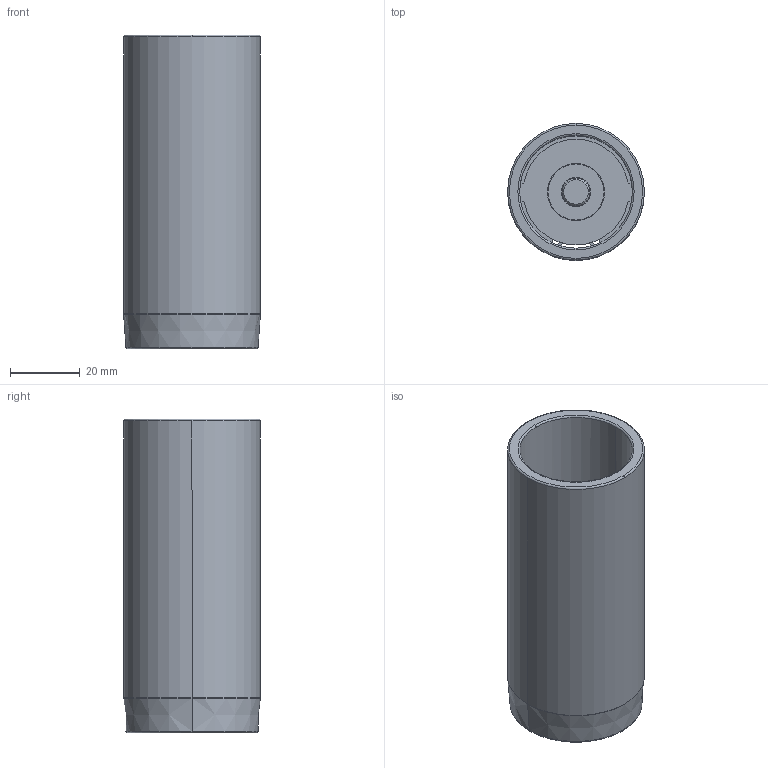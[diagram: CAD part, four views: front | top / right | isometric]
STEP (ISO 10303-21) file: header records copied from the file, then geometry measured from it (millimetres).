
FILE_DESCRIPTION((''),'2;1');
FILE_NAME('C12_032_090.stp','2009-01-28T09:49:22',(''),(''),'Mechanical Desktop 2009','Mechanical Desktop 2009',', , ');
FILE_SCHEMA(('CONFIG_CONTROL_DESIGN'));
Length unit declared in the file: millimetre
Products named in the file (2): Product; blmdl1
Assembly tree (1 placements, depth 2):
  Product
    blmdl1
Bounding box: 39.25 x 39.25 x 90 mm (x, y, z)
Volume: 37978.2 mm3; surface area: 25549 mm2
Topology: 5 solids, 5 shells, 79 faces, 200 edges, 134 vertices
Faces by surface type: cylinder 34, plane 29, torus 10, cone 6
Entity records: 2585 total; most frequent: DIRECTION 480, CARTESIAN_POINT 435, ORIENTED_EDGE 400, AXIS2_PLACEMENT_3D 203, EDGE_CURVE 200, VERTEX_POINT 134, CIRCLE 122, EDGE_LOOP 92
